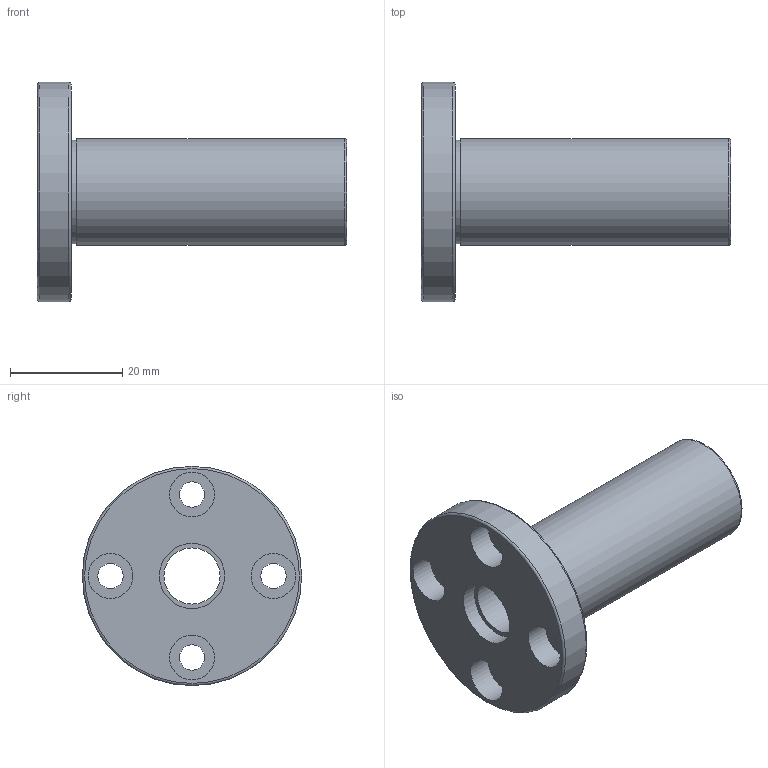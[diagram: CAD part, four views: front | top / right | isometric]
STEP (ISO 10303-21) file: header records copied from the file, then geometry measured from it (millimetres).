
FILE_DESCRIPTION( ( 'Unknown' ), '1' );
FILE_NAME( 'D:/累诀/己绕皋墨飘肺葱胶/11-04-06_档搁累己/01_府聪绢何教/LMF L/LMF 10L.stp', 'Unknown', ( 'Unknown' ), ( 'Unknown' ), 'PSStep 11.0', 'Unknown', ' ' );
FILE_SCHEMA( ( 'AUTOMOTIVE_DESIGN { 1 0 10303 214 1 1 1 1 }' ) );
Length unit declared in the file: millimetre
Products named in the file (1): 1
Bounding box: 55 x 39 x 39 mm (x, y, z)
Volume: 15577 mm3; surface area: 8034 mm2
Topology: 1 solids, 1 shells, 27 faces, 52 edges, 35 vertices
Faces by surface type: cylinder 14, plane 10, torus 3
Full cylindrical faces by diameter (mm): 4.5 x4, 8 x4, 10 x1, 11.6 x2, 18.4 x1, 19 x1, 39 x1
Entity records: 836 total; most frequent: DIRECTION 118, CARTESIAN_POINT 90, EDGE_LOOP 62, ORIENTED_EDGE 62, AXIS2_PLACEMENT_3D 59, FACE_OUTER_BOUND 44, EDGE_CURVE 31, VERTEX_POINT 31
